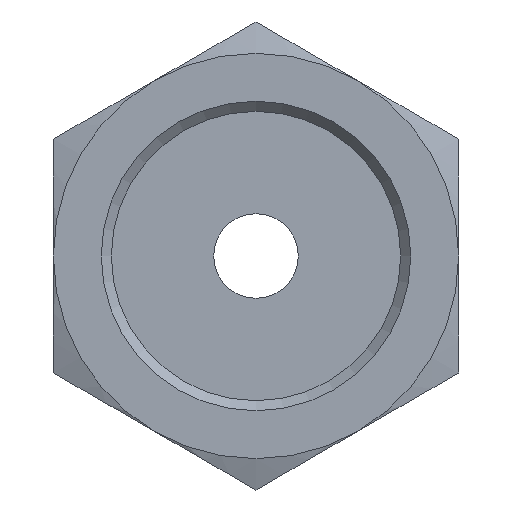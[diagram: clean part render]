
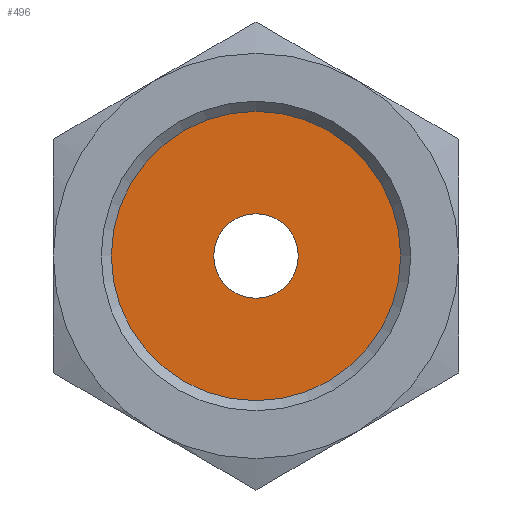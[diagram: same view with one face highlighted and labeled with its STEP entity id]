
A CAD part, front view. The second image highlights one B-rep face of the part: STEP entity #496.
In plain terms, the highlighted planar face has unit normal (0, -1, 0).
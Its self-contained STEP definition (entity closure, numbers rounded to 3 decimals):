
#56=FACE_BOUND('',#126,.T.);
#64=PLANE('',#578);
#86=FACE_OUTER_BOUND('',#125,.T.);
#125=EDGE_LOOP('',(#380));
#126=EDGE_LOOP('',(#381));
#187=CIRCLE('',#547,1.25);
#202=CIRCLE('',#570,4.283);
#220=VERTEX_POINT('',#773);
#234=VERTEX_POINT('',#815);
#265=EDGE_CURVE('',#220,#220,#187,.T.);
#285=EDGE_CURVE('',#234,#234,#202,.T.);
#380=ORIENTED_EDGE('',*,*,#285,.T.);
#381=ORIENTED_EDGE('',*,*,#265,.T.);
#496=ADVANCED_FACE('',(#86,#56),#64,.T.);
#547=AXIS2_PLACEMENT_3D('',#775,#621,#622);
#570=AXIS2_PLACEMENT_3D('',#817,#672,#673);
#578=AXIS2_PLACEMENT_3D('',#831,#688,#689);
#621=DIRECTION('center_axis',(0.,1.,0.));
#622=DIRECTION('ref_axis',(1.,0.,0.));
#672=DIRECTION('center_axis',(0.,-1.,0.));
#673=DIRECTION('ref_axis',(1.,0.,0.));
#688=DIRECTION('center_axis',(0.,-1.,0.));
#689=DIRECTION('ref_axis',(1.,0.,0.));
#773=CARTESIAN_POINT('',(-1.25,9.,0.));
#775=CARTESIAN_POINT('Origin',(0.,9.,0.));
#815=CARTESIAN_POINT('',(-4.283,9.,0.));
#817=CARTESIAN_POINT('Origin',(0.,9.,0.));
#831=CARTESIAN_POINT('Origin',(0.,9.,0.));
